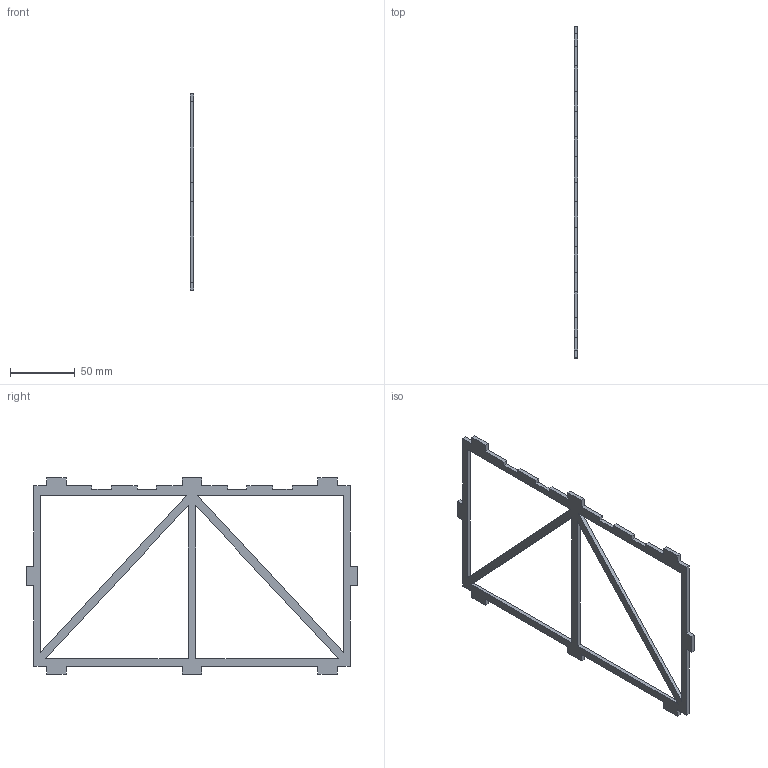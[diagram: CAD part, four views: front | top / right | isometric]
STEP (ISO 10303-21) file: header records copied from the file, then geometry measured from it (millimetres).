
FILE_DESCRIPTION(/* description */ (''),/* implementation_level */ '2;1');
FILE_NAME(/* name */ 'Side Mid_.step',/* time_stamp */ '2023-08-12T23:53:06+03:00',/* author */ (''),/* organization */ (''),/* preprocessor_version */ 'ST-DEVELOPER v20',/* originating_system */ 'Autodesk Translation Framework v12.9.0.99',/* authorisation */ '');
FILE_SCHEMA (('AUTOMOTIVE_DESIGN { 1 0 10303 214 3 1 1 }'));
Length unit declared in the file: millimetre
Products named in the file (1): Side Mid
Bounding box: 3 x 257 x 152 mm (x, y, z)
Volume: 23943.9 mm3; surface area: 23384.1 mm2
Topology: 1 solids, 1 shells, 66 faces, 192 edges, 128 vertices
Faces by surface type: plane 66
Entity records: 2185 total; most frequent: CARTESIAN_POINT 387, ORIENTED_EDGE 384, DIRECTION 326, LINE 192, VECTOR 192, EDGE_CURVE 192, VERTEX_POINT 128, EDGE_LOOP 74
